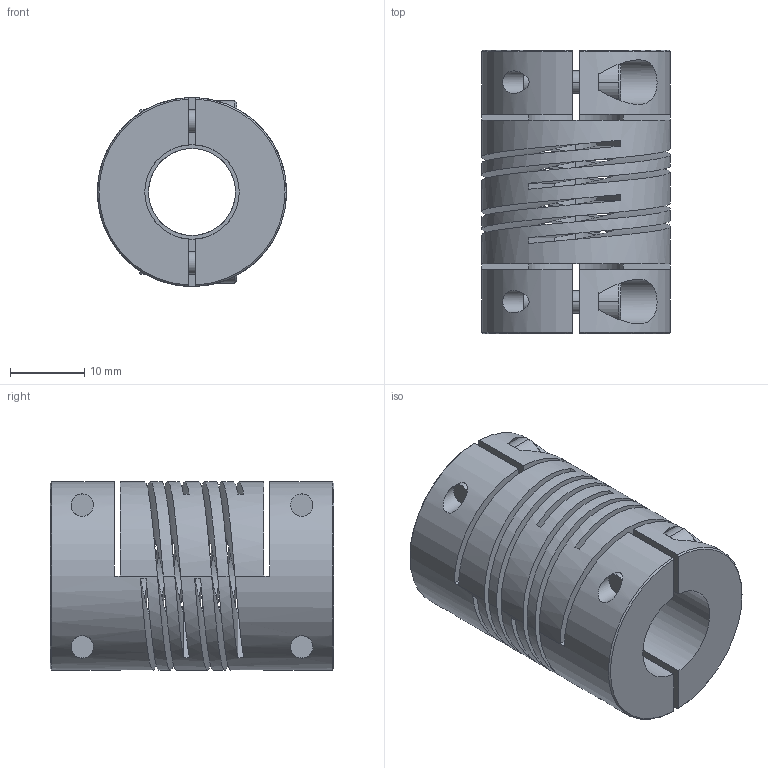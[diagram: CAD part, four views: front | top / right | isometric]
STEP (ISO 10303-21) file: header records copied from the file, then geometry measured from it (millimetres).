
FILE_DESCRIPTION((''),'2;1');
FILE_NAME('703_25','2006-12-06T',('Gary Melling'),(''),'PRO/ENGINEER BY PARAMETRIC TECHNOLOGY CORPORATION, 2006240','PRO/ENGINEER BY PARAMETRIC TECHNOLOGY CORPORATION, 2006240','');
FILE_SCHEMA(('CONFIG_CONTROL_DESIGN'));
Length unit declared in the file: millimetre
Products named in the file (1): 703_25
Bounding box: 25.4 x 38.1 x 25.4 mm (x, y, z)
Volume: 12339.8 mm3; surface area: 10472.3 mm2
Topology: 1 solids, 1 shells, 146 faces, 392 edges, 252 vertices
Faces by surface type: plane 78, cylinder 44, bspline 12, cone 12
Entity records: 6432 total; most frequent: CARTESIAN_POINT 2816, ORIENTED_EDGE 784, DIRECTION 668, EDGE_CURVE 392, VERTEX_POINT 252, VECTOR 224, LINE 224, AXIS2_PLACEMENT_3D 222
